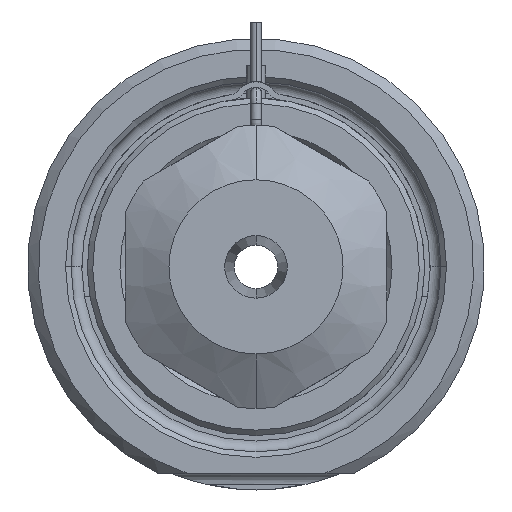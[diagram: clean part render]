
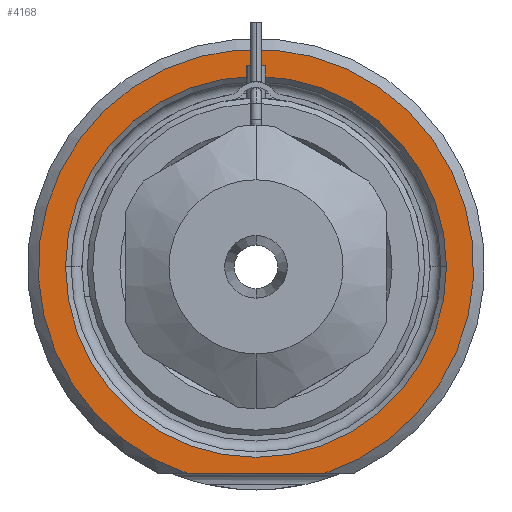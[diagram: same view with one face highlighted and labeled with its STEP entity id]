
A CAD part, front view. The second image highlights one B-rep face of the part: STEP entity #4168.
In plain terms, the highlighted planar face has unit normal (0, -1, 0).
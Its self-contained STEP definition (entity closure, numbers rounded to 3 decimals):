
#639=CARTESIAN_POINT('',(0.,0.,0.));
#640=DIRECTION('',(0.,-1.,0.));
#641=DIRECTION('',(0.312,0.,-0.95));
#642=AXIS2_PLACEMENT_3D('',#639,#640,#641);
#663=DIRECTION('',(1.,0.,0.));
#664=VECTOR('',#663,12.49);
#665=CARTESIAN_POINT('',(-6.245,0.,-19.));
#666=LINE('',#665,#664);
#667=CARTESIAN_POINT('',(0.,0.,0.));
#668=DIRECTION('',(0.,1.,0.));
#669=DIRECTION('',(-1.,0.,0.));
#670=AXIS2_PLACEMENT_3D('',#667,#668,#669);
#672=CARTESIAN_POINT('',(0.,0.,0.));
#673=DIRECTION('',(0.,1.,0.));
#674=DIRECTION('',(1.,0.,0.));
#675=AXIS2_PLACEMENT_3D('',#672,#673,#674);
#2757=CARTESIAN_POINT('',(-17.5,0.,0.));
#2758=CARTESIAN_POINT('',(17.5,0.,0.));
#2759=VERTEX_POINT('',#2757);
#2760=VERTEX_POINT('',#2758);
#2815=CARTESIAN_POINT('',(-6.245,0.,-19.));
#2816=CARTESIAN_POINT('',(6.245,0.,-19.));
#2817=VERTEX_POINT('',#2815);
#2818=VERTEX_POINT('',#2816);
#4153=CARTESIAN_POINT('',(0.,0.,0.));
#4154=DIRECTION('',(0.,-1.,0.));
#4155=DIRECTION('',(1.,0.,0.));
#4156=AXIS2_PLACEMENT_3D('',#4153,#4154,#4155);
#4157=PLANE('',#4156);
#4158=ORIENTED_EDGE('',*,*,#4085,.F.);
#4159=ORIENTED_EDGE('',*,*,#4145,.F.);
#4160=EDGE_LOOP('',(#4158,#4159));
#4161=FACE_OUTER_BOUND('',#4160,.F.);
#4163=ORIENTED_EDGE('',*,*,#4162,.F.);
#4165=ORIENTED_EDGE('',*,*,#4164,.F.);
#4166=EDGE_LOOP('',(#4163,#4165));
#4167=FACE_BOUND('',#4166,.F.);
#4168=ADVANCED_FACE('',(#4161,#4167),#4157,.T.);
#643=CIRCLE('',#642,20.);
#671=CIRCLE('',#670,17.5);
#676=CIRCLE('',#675,17.5);
#4085=EDGE_CURVE('',#2817,#2818,#666,.T.);
#4145=EDGE_CURVE('',#2818,#2817,#643,.T.);
#4162=EDGE_CURVE('',#2759,#2760,#671,.T.);
#4164=EDGE_CURVE('',#2760,#2759,#676,.T.);
